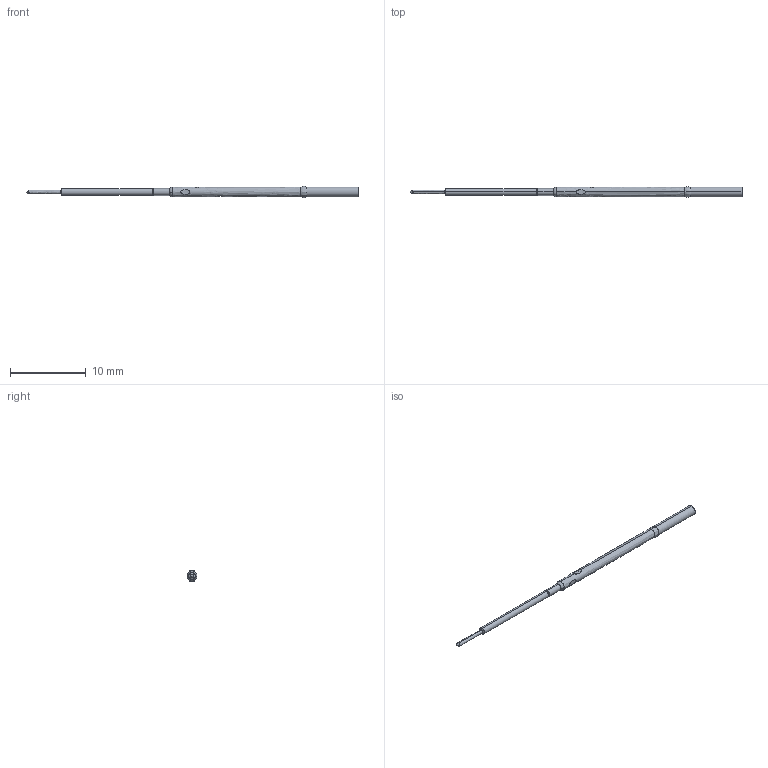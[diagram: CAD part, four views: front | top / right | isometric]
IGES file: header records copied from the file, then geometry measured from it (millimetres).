
Start section: SolidWorks IGES file using analytic representation for surfaces
Global section: file name: Z:\probe solid model mockups\Solidworks models\DER-075\DER-075T.IGS; native system: SolidWorks 2006 by SolidWorks Corporation; preprocessor: SolidWorks 2006 by SolidWorks Corporation; author: tsakatani; date: 071218.084925; units: inch
Bounding box: 43.94 x 1.46 x 1.47 mm (x, y, z)
Surface area: 236.8 mm2 (no closed solid volume)
Topology: 0 solids, 0 shells, 39 faces, 410 edges, 410 vertices
Faces by surface type: revolution 29, bspline 10
